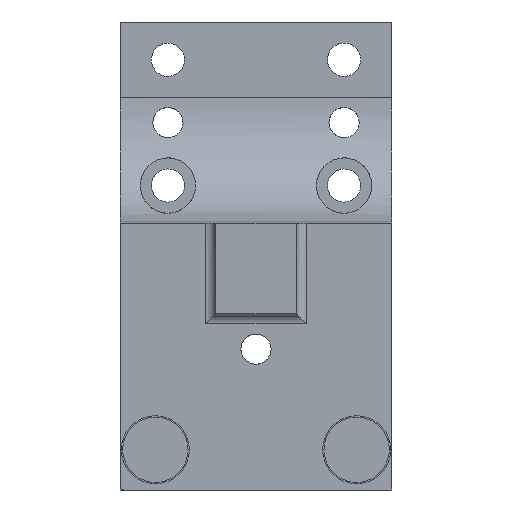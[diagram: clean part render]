
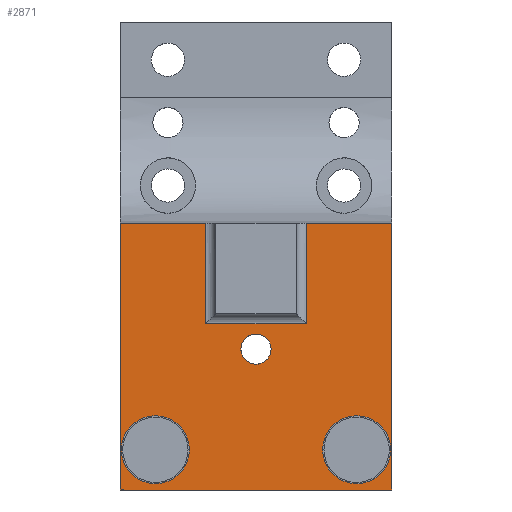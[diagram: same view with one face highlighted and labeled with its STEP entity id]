
A CAD part, front view. The second image highlights one B-rep face of the part: STEP entity #2871.
In plain terms, the highlighted planar face has unit normal (0, -1, 0).
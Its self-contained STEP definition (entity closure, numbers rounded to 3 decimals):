
#371=CARTESIAN_POINT('Vertex',(-27.,-18.,-28.)) ;
#374=CARTESIAN_POINT('Line Origine',(-27.,-18.,-1.5)) ;
#378=CARTESIAN_POINT('Vertex',(-27.,-18.,25.)) ;
#760=CARTESIAN_POINT('Vertex',(2.633,-18.,1.438)) ;
#765=CARTESIAN_POINT('Axis2P3D Location',(0.,-18.,0.)) ;
#769=CARTESIAN_POINT('Vertex',(-2.633,-18.,-1.438)) ;
#1105=CARTESIAN_POINT('Line Origine',(10.,-18.,-1.5)) ;
#1109=CARTESIAN_POINT('Vertex',(10.,-18.,25.)) ;
#1111=CARTESIAN_POINT('Vertex',(10.,-18.,5.)) ;
#1200=CARTESIAN_POINT('Line Origine',(-10.,-18.,-1.5)) ;
#1204=CARTESIAN_POINT('Vertex',(-10.,-18.,5.)) ;
#1206=CARTESIAN_POINT('Vertex',(-10.,-18.,25.)) ;
#2301=CARTESIAN_POINT('Vertex',(20.,-18.,-26.75)) ;
#2304=CARTESIAN_POINT('Axis2P3D Location',(20.,-18.,-20.)) ;
#2308=CARTESIAN_POINT('Vertex',(20.,-18.,-13.25)) ;
#2328=CARTESIAN_POINT('Axis2P3D Location',(20.,-18.,-20.)) ;
#2349=CARTESIAN_POINT('Vertex',(-20.,-18.,-26.75)) ;
#2352=CARTESIAN_POINT('Axis2P3D Location',(-20.,-18.,-20.)) ;
#2356=CARTESIAN_POINT('Vertex',(-20.,-18.,-13.25)) ;
#2376=CARTESIAN_POINT('Axis2P3D Location',(-20.,-18.,-20.)) ;
#2393=CARTESIAN_POINT('Line Origine',(0.,-18.,5.)) ;
#2703=CARTESIAN_POINT('Axis2P3D Location',(0.,-18.,0.)) ;
#2809=CARTESIAN_POINT('Vertex',(27.,-18.,-28.)) ;
#2812=CARTESIAN_POINT('Line Origine',(0.,-18.,-28.)) ;
#2827=CARTESIAN_POINT('Axis2P3D Location',(0.,-18.,25.)) ;
#2832=CARTESIAN_POINT('Line Origine',(-18.5,-18.,25.)) ;
#2837=CARTESIAN_POINT('Line Origine',(27.,-18.,-1.5)) ;
#2841=CARTESIAN_POINT('Vertex',(27.,-18.,25.)) ;
#2844=CARTESIAN_POINT('Line Origine',(18.5,-18.,25.)) ;
#375=DIRECTION('Vector Direction',(0.,0.,-1.)) ;
#766=DIRECTION('Axis2P3D Direction',(0.,-1.,0.)) ;
#1106=DIRECTION('Vector Direction',(0.,0.,1.)) ;
#1201=DIRECTION('Vector Direction',(0.,0.,-1.)) ;
#2305=DIRECTION('Axis2P3D Direction',(0.,-1.,-0.)) ;
#2329=DIRECTION('Axis2P3D Direction',(0.,-1.,0.)) ;
#2353=DIRECTION('Axis2P3D Direction',(0.,-1.,-0.)) ;
#2377=DIRECTION('Axis2P3D Direction',(0.,-1.,0.)) ;
#2394=DIRECTION('Vector Direction',(1.,0.,0.)) ;
#2704=DIRECTION('Axis2P3D Direction',(0.,-1.,-0.)) ;
#2813=DIRECTION('Vector Direction',(1.,0.,0.)) ;
#2828=DIRECTION('Axis2P3D Direction',(0.,-1.,0.)) ;
#2829=DIRECTION('Axis2P3D XDirection',(0.,0.,-1.)) ;
#2833=DIRECTION('Vector Direction',(1.,0.,0.)) ;
#2838=DIRECTION('Vector Direction',(0.,0.,-1.)) ;
#2845=DIRECTION('Vector Direction',(1.,0.,0.)) ;
#767=AXIS2_PLACEMENT_3D('Circle Axis2P3D',#765,#766,$) ;
#2306=AXIS2_PLACEMENT_3D('Circle Axis2P3D',#2304,#2305,$) ;
#2330=AXIS2_PLACEMENT_3D('Circle Axis2P3D',#2328,#2329,$) ;
#2354=AXIS2_PLACEMENT_3D('Circle Axis2P3D',#2352,#2353,$) ;
#2378=AXIS2_PLACEMENT_3D('Circle Axis2P3D',#2376,#2377,$) ;
#2705=AXIS2_PLACEMENT_3D('Circle Axis2P3D',#2703,#2704,$) ;
#2830=AXIS2_PLACEMENT_3D('Plane Axis2P3D',#2827,#2828,#2829) ;
#2850=ORIENTED_EDGE('',*,*,#2836,.F.) ;
#2851=ORIENTED_EDGE('',*,*,#380,.T.) ;
#2852=ORIENTED_EDGE('',*,*,#2816,.T.) ;
#2853=ORIENTED_EDGE('',*,*,#2843,.F.) ;
#2854=ORIENTED_EDGE('',*,*,#2848,.F.) ;
#2855=ORIENTED_EDGE('',*,*,#1113,.T.) ;
#2856=ORIENTED_EDGE('',*,*,#2397,.T.) ;
#2857=ORIENTED_EDGE('',*,*,#1208,.T.) ;
#2860=ORIENTED_EDGE('',*,*,#2380,.F.) ;
#2861=ORIENTED_EDGE('',*,*,#2358,.F.) ;
#2864=ORIENTED_EDGE('',*,*,#2332,.F.) ;
#2865=ORIENTED_EDGE('',*,*,#2310,.F.) ;
#2868=ORIENTED_EDGE('',*,*,#771,.F.) ;
#2869=ORIENTED_EDGE('',*,*,#2707,.F.) ;
#2862=FACE_BOUND('',#2859,.T.) ;
#2866=FACE_BOUND('',#2863,.T.) ;
#2870=FACE_BOUND('',#2867,.T.) ;
#376=VECTOR('Line Direction',#375,1.) ;
#1107=VECTOR('Line Direction',#1106,1.) ;
#1202=VECTOR('Line Direction',#1201,1.) ;
#2395=VECTOR('Line Direction',#2394,1.) ;
#2814=VECTOR('Line Direction',#2813,1.) ;
#2834=VECTOR('Line Direction',#2833,1.) ;
#2839=VECTOR('Line Direction',#2838,1.) ;
#2846=VECTOR('Line Direction',#2845,1.) ;
#2871=ADVANCED_FACE('PartBody.1',(#2858,#2862,#2866,#2870),#2831,.T.) ;
#768=CIRCLE('generated circle',#767,3.) ;
#2307=CIRCLE('generated circle',#2306,6.75) ;
#2331=CIRCLE('generated circle',#2330,6.75) ;
#2355=CIRCLE('generated circle',#2354,6.75) ;
#2379=CIRCLE('generated circle',#2378,6.75) ;
#2706=CIRCLE('generated circle',#2705,3.) ;
#380=EDGE_CURVE('',#379,#372,#377,.T.) ;
#771=EDGE_CURVE('',#761,#770,#768,.T.) ;
#1113=EDGE_CURVE('',#1110,#1112,#1108,.F.) ;
#1208=EDGE_CURVE('',#1205,#1207,#1203,.F.) ;
#2310=EDGE_CURVE('',#2302,#2309,#2307,.T.) ;
#2332=EDGE_CURVE('',#2309,#2302,#2331,.T.) ;
#2358=EDGE_CURVE('',#2350,#2357,#2355,.T.) ;
#2380=EDGE_CURVE('',#2357,#2350,#2379,.T.) ;
#2397=EDGE_CURVE('',#1112,#1205,#2396,.F.) ;
#2707=EDGE_CURVE('',#770,#761,#2706,.T.) ;
#2816=EDGE_CURVE('',#372,#2810,#2815,.T.) ;
#2836=EDGE_CURVE('',#379,#1207,#2835,.T.) ;
#2843=EDGE_CURVE('',#2842,#2810,#2840,.T.) ;
#2848=EDGE_CURVE('',#1110,#2842,#2847,.T.) ;
#2849=EDGE_LOOP('',(#2850,#2851,#2852,#2853,#2854,#2855,#2856,#2857)) ;
#2859=EDGE_LOOP('',(#2860,#2861)) ;
#2863=EDGE_LOOP('',(#2864,#2865)) ;
#2867=EDGE_LOOP('',(#2868,#2869)) ;
#2858=FACE_OUTER_BOUND('',#2849,.T.) ;
#377=LINE('Line',#374,#376) ;
#1108=LINE('Line',#1105,#1107) ;
#1203=LINE('Line',#1200,#1202) ;
#2396=LINE('Line',#2393,#2395) ;
#2815=LINE('Line',#2812,#2814) ;
#2835=LINE('Line',#2832,#2834) ;
#2840=LINE('Line',#2837,#2839) ;
#2847=LINE('Line',#2844,#2846) ;
#2831=PLANE('',#2830) ;
#372=VERTEX_POINT('',#371) ;
#379=VERTEX_POINT('',#378) ;
#761=VERTEX_POINT('',#760) ;
#770=VERTEX_POINT('',#769) ;
#1110=VERTEX_POINT('',#1109) ;
#1112=VERTEX_POINT('',#1111) ;
#1205=VERTEX_POINT('',#1204) ;
#1207=VERTEX_POINT('',#1206) ;
#2302=VERTEX_POINT('',#2301) ;
#2309=VERTEX_POINT('',#2308) ;
#2350=VERTEX_POINT('',#2349) ;
#2357=VERTEX_POINT('',#2356) ;
#2810=VERTEX_POINT('',#2809) ;
#2842=VERTEX_POINT('',#2841) ;
